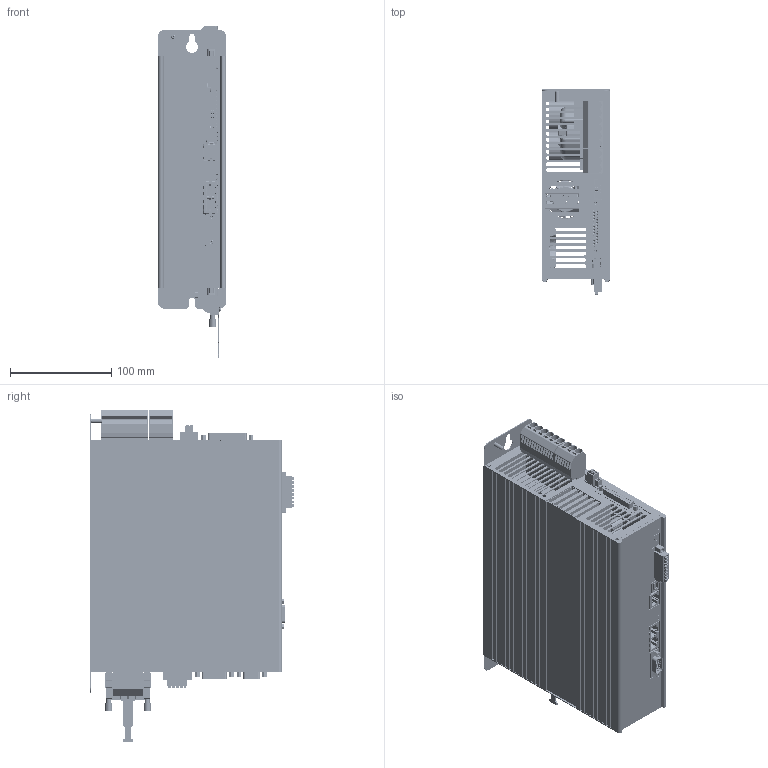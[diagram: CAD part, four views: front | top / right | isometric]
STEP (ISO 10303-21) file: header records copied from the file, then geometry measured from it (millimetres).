
FILE_DESCRIPTION(('STEP AP214'),'1');
FILE_NAME('D:/Subversion/BasicLine_PROJ/HW/MECHANIK/Komplettgeräte/Komplettgerät_BL4300C_0p1_Doku.stp','2019-04-04T14:29:19',(''),(''),'Spatial InterOp 3D',' ',' ');
FILE_SCHEMA(('automotive_design'));
Length unit declared in the file: inch
Products named in the file (1326): ACIS-VolumenkÃ¶rper_1556; ACIS-VolumenkÃ¶rper_1598; ACIS-VolumenkÃ¶rper_1620; ACIS-VolumenkÃ¶rper_1626; ACIS-VolumenkÃ¶rper_1682; ACIS-VolumenkÃ¶rper_1698; ACIS-VolumenkÃ¶rper_1712; ACIS-VolumenkÃ¶rper_1718; ACIS-VolumenkÃ¶rper_1734; ACIS-VolumenkÃ¶rper_1748; ACIS-VolumenkÃ¶rper_1762; ACIS-VolumenkÃ¶rper_1776; ACIS-VolumenkÃ¶rper_1790; ACIS-VolumenkÃ¶rper_1804; ACIS-VolumenkÃ¶rper_1818; ACIS-VolumenkÃ¶rper_1832; ACIS-VolumenkÃ¶rper_1856; ACIS-VolumenkÃ¶rper_1872; ACIS-VolumenkÃ¶rper_1878; ACIS-VolumenkÃ¶rper_1892; ACIS-VolumenkÃ¶rper_1898; ACIS-VolumenkÃ¶rper_1904; ACIS-VolumenkÃ¶rper_1918; ACIS-VolumenkÃ¶rper_1932; ACIS-VolumenkÃ¶rper_1946; ACIS-VolumenkÃ¶rper_1960; ACIS-VolumenkÃ¶rper_1974; ACIS-VolumenkÃ¶rper_1980; ACIS-VolumenkÃ¶rper_1998; ACIS-VolumenkÃ¶rper_2012; ACIS-VolumenkÃ¶rper_2026; ACIS-VolumenkÃ¶rper_2040; ACIS-VolumenkÃ¶rper_2054; ACIS-VolumenkÃ¶rper_2068; ACIS-VolumenkÃ¶rper_2082; ACIS-VolumenkÃ¶rper_2096; ACIS-VolumenkÃ¶rper_2102; ACIS-VolumenkÃ¶rper_2108; ACIS-VolumenkÃ¶rper_2128; ACIS-VolumenkÃ¶rper_2142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
Bounding box: 67 x 202.4 x 327.9 mm (x, y, z)
Volume: 1134722.6 mm3; surface area: 738522.2 mm2
Topology: 125 solids, 1318 shells, 14240 faces, 41876 edges, 30018 vertices
Faces by surface type: plane 9552, cylinder 2687, bspline 1065, cone 528, torus 251, sphere 157
Full cylindrical faces by diameter (mm): 0.44 x5, 0.46 x10, 0.76 x10, 0.85 x10, 1.1 x20, 1.28 x5, 1.305 x5, 1.34 x10, 1.5 x2
Entity records: 656731 total; most frequent: CARTESIAN_POINT 130490, DIRECTION 76456, ORIENTED_EDGE 75814, EDGE_CURVE 41318, LINE 30802, VECTOR 30802, VERTEX_POINT 29455, AXIS2_PLACEMENT_3D 22827
